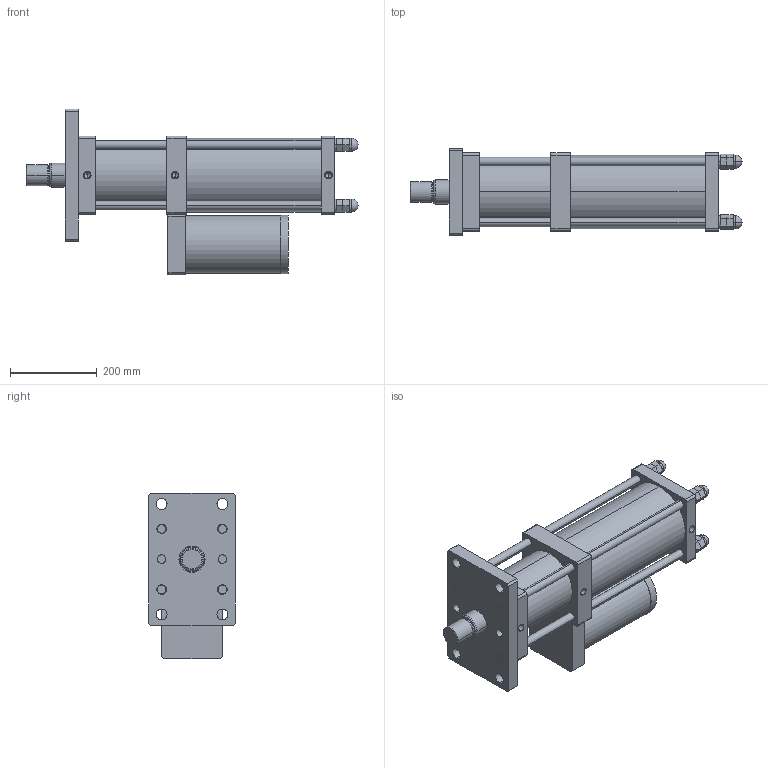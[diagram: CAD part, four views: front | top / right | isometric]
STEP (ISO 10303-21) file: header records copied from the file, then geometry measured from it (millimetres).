
FILE_DESCRIPTION (( 'STEP AP203' ), '1' );
FILE_NAME ('MPT-125-50-20-15T.STEP', '2016-03-11T09:11:34', ( 'WIN' ), ( '' ), 'SwSTEP 2.0', 'SolidWorks 2014', '' );
FILE_SCHEMA (( 'CONFIG_CONTROL_DESIGN' ));
Length unit declared in the file: millimetre
Products named in the file (1): MPT-125-50-20-15T
Bounding box: 766 x 200 x 382.5 mm (x, y, z)
Volume: 17468147.9 mm3; surface area: 1191662.2 mm2
Topology: 17 solids, 17 shells, 318 faces, 726 edges, 454 vertices
Faces by surface type: plane 154, cylinder 122, cone 30, sphere 8, torus 4
Entity records: 8889 total; most frequent: DIRECTION 1638, CARTESIAN_POINT 1467, ORIENTED_EDGE 1404, EDGE_CURVE 702, AXIS2_PLACEMENT_3D 617, VERTEX_POINT 446, VECTOR 404, LINE 404
